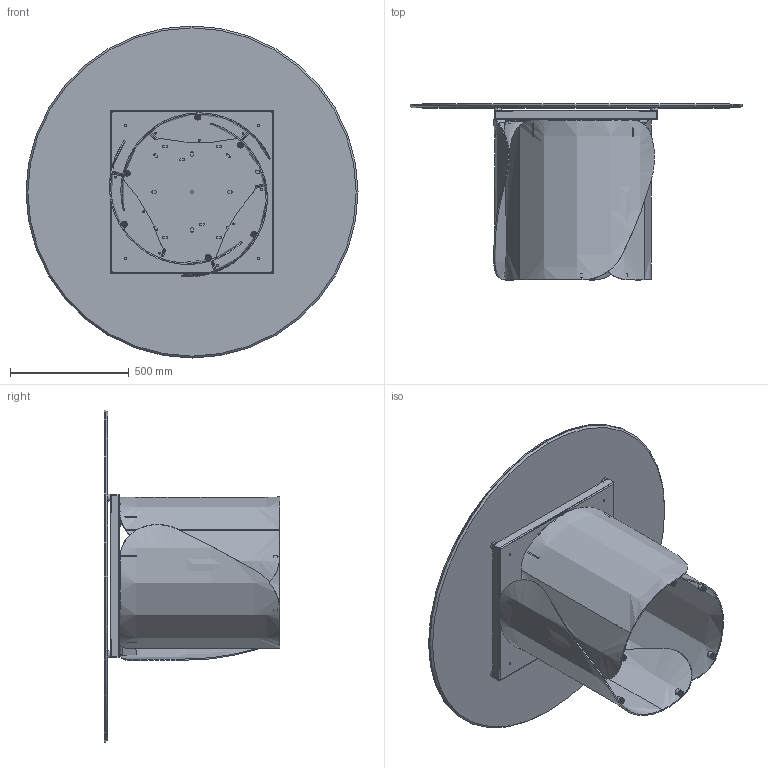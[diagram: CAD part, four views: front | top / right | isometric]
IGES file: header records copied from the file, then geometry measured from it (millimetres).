
Start section: SolidWorks IGES file using analytic representation for surfaces
Global section: file name: Y:\eforma\TECNICO\SOLIDWORKS\E-FORMA\1-TAVOLI\ONDA\02 parts\ON06C.IGS; native system: SolidWorks 2022; preprocessor: SolidWorks 2022; author: eforma.tech; date: 240806.152910; units: millimetre
Bounding box: 1400 x 742 x 1400 mm (x, y, z)
Volume: 35266491.9 mm3; surface area: 10847304.7 mm2
Topology: 63 solids, 63 shells, 1551 faces, 3661 edges, 2272 vertices
Faces by surface type: revolution 863, plane 628, bspline 60
